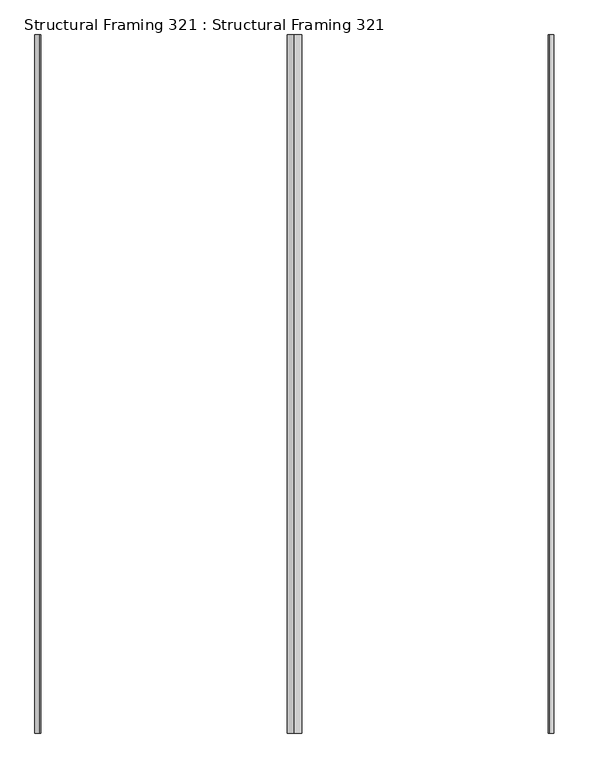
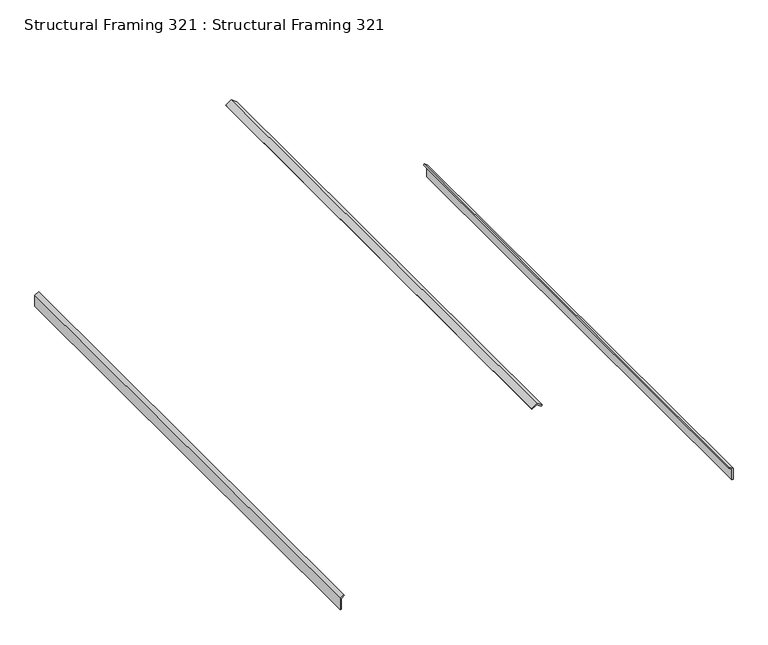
"""IFC4 building model written with IfcOpenShell, lengths in millimetres: beam geometry, Structural Framing 321 : Structural Framing 321."""

from ifc_helpers import new_model, si_unit, frame, origin, place, context, project, spatial, polyline, outline, extrude, source, transform, mapped, element, save


def structural_framing_321_structural_framing_321_e100f737(model_context):
    return source(origin(), model_context, "Body", "SweptSolid", [
        extrude(outline(polyline([(81.6513175, -2661.523644), (125.9436451, -2598.2676447), (146.6596907, -2612.2621242), (94.6612147, -2686.523644), (-144.1919814, -2686.523644), (-144.1919814, -2661.523644), (81.6513175, -2661.523644)])), frame((0.0, -6702.9048058, 0.0), z_axis=(0.0, 1.0, 0.0), x_axis=(0.0, 0.0, 1.0)), (0.0, 0.0, 1.0), 10628.455608),
        extrude(outline(polyline([(81.6513175, 5190.0572008), (-144.1919814, 5190.0572008), (-144.1919814, 5215.0572008), (94.6612147, 5215.0572008), (146.6596907, 5140.7956809), (125.9436451, 5126.8012014), (81.6513175, 5190.0572008)])), frame((0.0, -6702.9048058, 0.0), z_axis=(0.0, 1.0, 0.0), x_axis=(0.0, 0.0, 1.0)), (0.0, 0.0, 1.0), 10628.455608),
        extrude(outline(polyline([(2763.1211575, 1168.012163), (2830.5193647, 1264.2667784), (2763.1211575, 1360.5213937), (2783.837203, 1374.5158732), (2861.0344503, 1264.2667784), (2783.837203, 1154.0176835), (2763.1211575, 1168.012163)])), frame((0.0, -6702.9048058, 0.0), z_axis=(0.0, 1.0, 0.0), x_axis=(0.0, 0.0, 1.0)), (0.0, 0.0, 1.0), 10628.455608),
    ])


if __name__ == "__main__":
    model = new_model("IFC4")
    model_context = context("Model", 3, world=origin())
    ifc_project = project(units=[si_unit("LENGTHUNIT", "METRE", prefix="MILLI")], contexts=[model_context])
    site = spatial("IfcSite", under=ifc_project)
    building = spatial("IfcBuilding", under=site)
    placement = place(None, origin())
    structural_framing_321_structural_framing_321_shape = structural_framing_321_structural_framing_321_e100f737(model_context)
    element("IfcBeam", 1, ObjectType="Structural Framing 321 : Structural Framing 321", at=placement, inside=building, context=model_context, shape_type="MappedRepresentation", body=[
        mapped(structural_framing_321_structural_framing_321_shape, transform((0.0, 0.0, 0.0), x_axis=(1.0, 0.0, 0.0), y_axis=(0.0, 1.0, 0.0), z_axis=(0.0, 0.0, 1.0))),
    ])
    save(model, "model.ifc")
